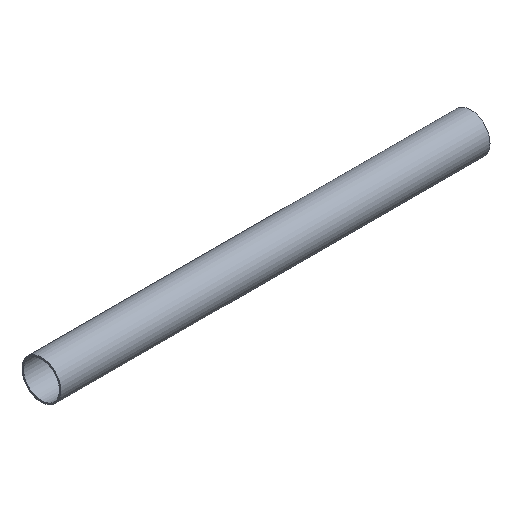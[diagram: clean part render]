
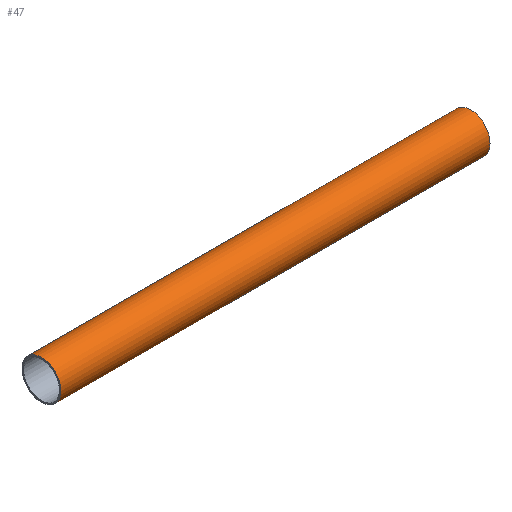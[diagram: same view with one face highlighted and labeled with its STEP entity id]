
A CAD part, isometric view. The second image highlights one B-rep face of the part: STEP entity #47.
In plain terms, the highlighted cylindrical face has radius 40 mm (diameter 80 mm), a full revolution.
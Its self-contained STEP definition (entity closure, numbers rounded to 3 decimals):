
#43=CYLINDRICAL_SURFACE('',#94,40.);
#47=ADVANCED_FACE('',(#56,#57),#43,.T.);
#56=FACE_BOUND('',#64,.T.);
#57=FACE_BOUND('',#65,.T.);
#64=EDGE_LOOP('',(#72));
#65=EDGE_LOOP('',(#73));
#72=ORIENTED_EDGE('',*,*,#79,.F.);
#73=ORIENTED_EDGE('',*,*,#81,.T.);
#75=VERTEX_POINT('',#117);
#77=VERTEX_POINT('',#122);
#79=EDGE_CURVE('',#75,#75,#83,.T.);
#81=EDGE_CURVE('',#77,#77,#85,.T.);
#83=CIRCLE('',#88,40.);
#85=CIRCLE('',#91,40.);
#88=AXIS2_PLACEMENT_3D('',#116,#99,#100);
#91=AXIS2_PLACEMENT_3D('',#121,#105,#106);
#94=AXIS2_PLACEMENT_3D('',#125,#111,#112);
#99=DIRECTION('',(1.,0.,0.));
#100=DIRECTION('',(0.,1.,0.));
#105=DIRECTION('',(1.,0.,0.));
#106=DIRECTION('',(0.,1.,0.));
#111=DIRECTION('',(-1.,0.,0.));
#112=DIRECTION('',(0.,0.,1.));
#116=CARTESIAN_POINT('',(0.,0.,0.));
#117=CARTESIAN_POINT('',(0.,40.,0.));
#121=CARTESIAN_POINT('',(-882.,0.,0.));
#122=CARTESIAN_POINT('',(-882.,40.,0.));
#125=CARTESIAN_POINT('',(0.,0.,0.));
